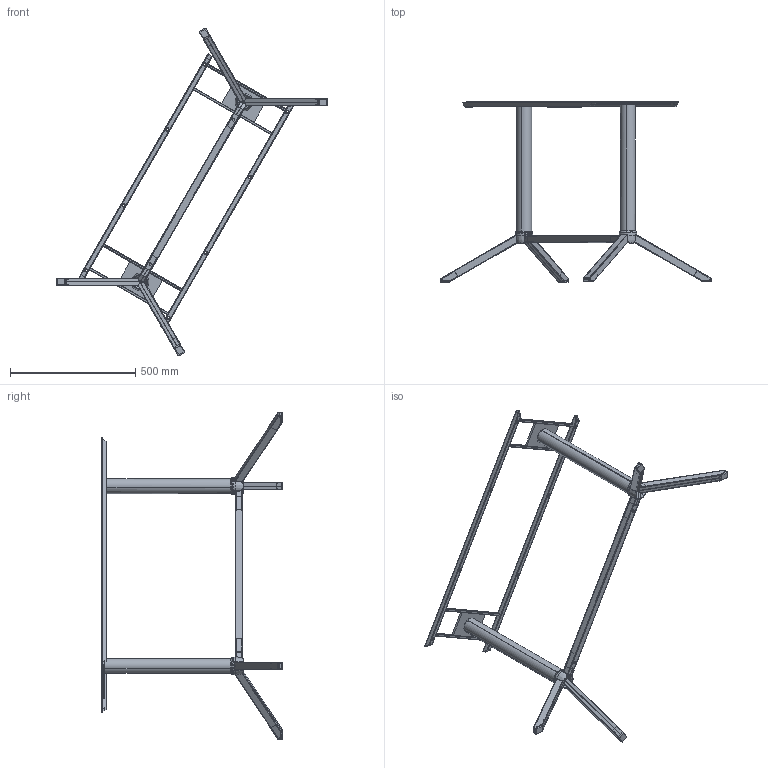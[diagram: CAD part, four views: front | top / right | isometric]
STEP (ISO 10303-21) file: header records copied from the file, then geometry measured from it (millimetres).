
FILE_DESCRIPTION (( 'STEP AP203' ), '1' );
FILE_NAME ('Dikdörtgen Masa.STEP', '2020-12-18T14:35:40', ( 'PC' ), ( '' ), 'SwSTEP 2.0', 'SolidWorks 2015', '' );
FILE_SCHEMA (( 'CONFIG_CONTROL_DESIGN' ));
Length unit declared in the file: millimetre
Products named in the file (16): ayak d鼁 t; Aynalama25x25xParca; 30x30Travers; Dikdörtgen Masa; Aynalama60 Boru; Aynalama10x10 sase; 25x25xParca; 60 Boru; Part4; 3 Ayak Cap 60 Göbek; 20x20 Sase; ARaa; 3 AYAK; 100x150 sac; Aynalamaayak d鼁 t; 10x10 sase
Assembly tree (25 placements, depth 2):
  Dikdörtgen Masa
    3 AYAK  x4
    ayak d鼁 t  x3
    3 Ayak Cap 60 Göbek  x2
    ARaa  x2
    25x25xParca
    60 Boru
    Aynalama60 Boru
    Aynalamaayak d鼁 t
    Aynalama25x25xParca
    30x30Travers
    20x20 Sase  x2
    10x10 sase  x3
    100x150 sac  x2
    Aynalama10x10 sase
  Part4
Bounding box: 1082 x 720.48 x 1309.23 mm (x, y, z)
Volume: 1266729.4 mm3; surface area: 1447453.3 mm2
Topology: 25 solids, 25 shells, 1317 faces, 3101 edges, 1810 vertices
Faces by surface type: plane 656, cylinder 392, bspline 223, torus 20, cone 18, sphere 8
Entity records: 34085 total; most frequent: CARTESIAN_POINT 17377, ORIENTED_EDGE 3238, DIRECTION 2801, EDGE_CURVE 1619, VECTOR 957, LINE 957, VERTEX_POINT 951, AXIS2_PLACEMENT_3D 922
